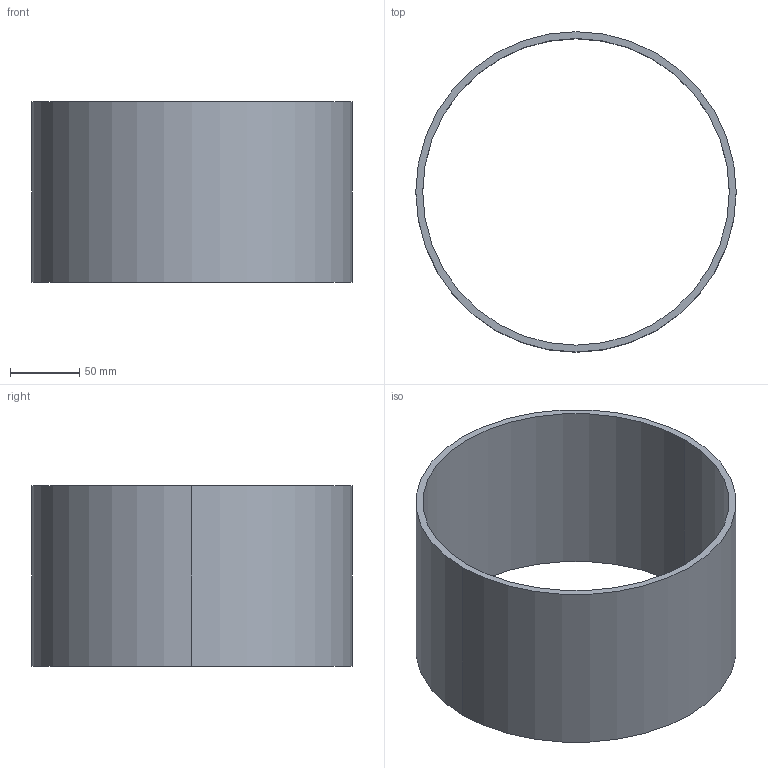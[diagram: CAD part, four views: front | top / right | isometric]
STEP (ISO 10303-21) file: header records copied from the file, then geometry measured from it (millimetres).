
FILE_DESCRIPTION(('CATIA V5 STEP Exchange'),'2;1');
FILE_NAME('C:\_Andres\UNIVERSIDAD\IQS\ASIGNATURAS\DAO\EXF\EXF-15161c\1original\Molins_Gutiérrez_Ej07-tabla_v16.stp','2016-03-04T21:16:34+00:00',('none'),('none'),'CATIA Version 5 Release 20 SP 1 (IN-10)','CATIA V5 STEP AP203','none');
FILE_SCHEMA(('CONFIG_CONTROL_DESIGN'));
Length unit declared in the file: millimetre
Products named in the file (1): Molins_Gutiérrez_Ej07-tabla_v16
Bounding box: 232 x 232 x 131 mm (x, y, z)
Volume: 467107.7 mm3; surface area: 193974.5 mm2
Topology: 1 solids, 1 shells, 6 faces, 13 edges, 10 vertices
Faces by surface type: cylinder 4, plane 2
Entity records: 208 total; most frequent: CARTESIAN_POINT 29, ORIENTED_EDGE 24, DIRECTION 23, AXIS2_PLACEMENT_3D 14, EDGE_CURVE 12, CIRCLE 8, EDGE_LOOP 8, VERTEX_POINT 8
